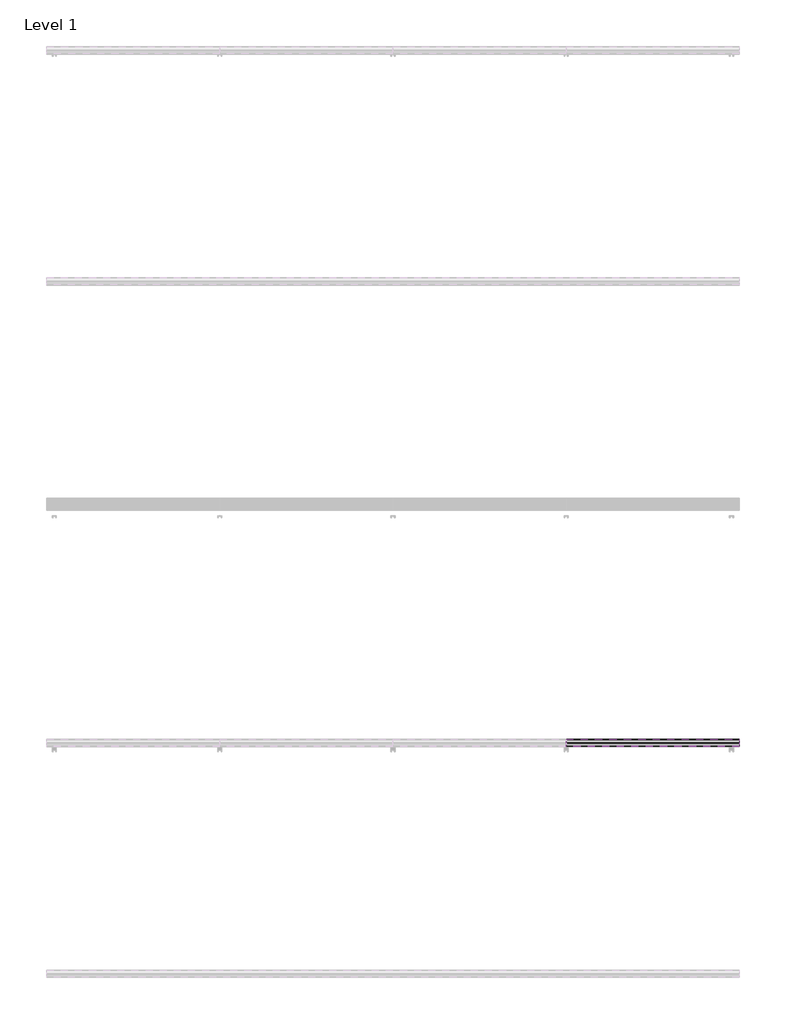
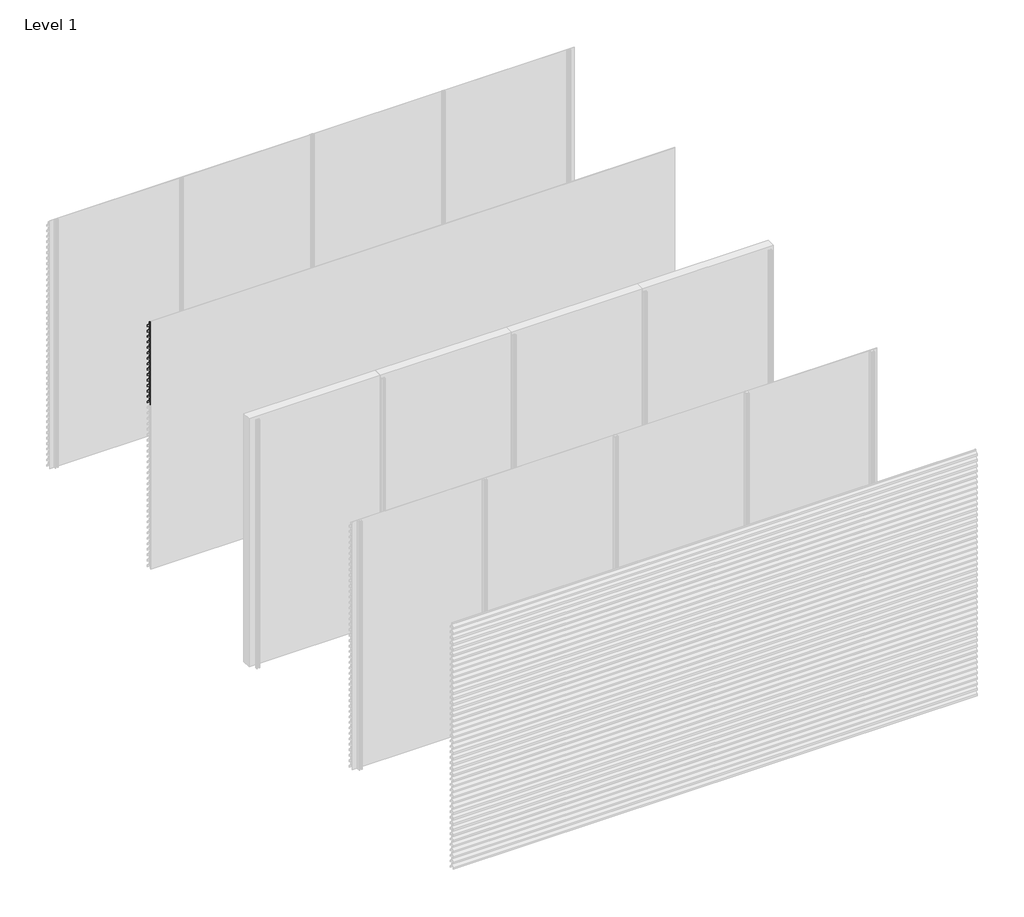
# One storey, part 28 of 35: 70 proxies.
"""IFC4 building model written with IfcOpenShell, lengths in millimetres."""

from ifc_helpers import new_model, si_unit, frame, origin, place, context, project, spatial, polyline, outline, extrude, element, save

model = new_model("IFC4")

# Units and contexts
model_context = context("Model", 3, world=origin())
ifc_project = project(units=[si_unit("LENGTHUNIT", "METRE", prefix="MILLI")], contexts=[model_context])

# Site, building, storey
site = spatial("IfcSite", under=ifc_project)
building = spatial("IfcBuilding", under=site)
storey = spatial("IfcBuildingStorey", under=building, Name="Level 1", Elevation=0.0)

# Proxies
placement = place(None, origin())
element("IfcBuildingElementProxy", 1, Name="Wall Sweeps", at=placement, inside=storey, context=model_context, shape_type="SweptSolid", body=[
    extrude(outline(polyline([(-7936.0, 2916.0), (-7936.0, 2896.0), (-7937.25, 2896.0), (-7937.25, 2915.4342979), (-7968.1138939, 2948.531772), (-7996.7, 2928.4392868), (-7996.7, 2909.6629874), (-7998.0, 2908.8506572), (-7998.0, 2929.1145472), (-7968.537525, 2949.823011), (-7968.537525, 2970.0), (-7967.1772624, 2970.0), (-7967.1772624, 2949.4335207), (-7936.0, 2916.0)])), frame((0.0, 0.0, 0.0), z_axis=(1.0, 0.0, 0.0), x_axis=(0.0, 1.0, 0.0)), (0.0, 0.0, 1.0), 6000.0),
])
element("IfcBuildingElementProxy", 2, Name="Wall Sweeps", at=placement, inside=storey, context=model_context, shape_type="SweptSolid", body=[
    extrude(outline(polyline([(-7936.0, 2850.0), (-7936.0, 2830.0), (-7937.25, 2830.0), (-7937.25, 2849.4342979), (-7968.1138939, 2882.531772), (-7996.7, 2862.4392868), (-7996.7, 2843.6629874), (-7998.0, 2842.8506572), (-7998.0, 2863.1145472), (-7968.537525, 2883.823011), (-7968.537525, 2904.0), (-7967.1772624, 2904.0), (-7967.1772624, 2883.4335207), (-7936.0, 2850.0)])), frame((0.0, 0.0, 0.0), z_axis=(1.0, 0.0, 0.0), x_axis=(0.0, 1.0, 0.0)), (0.0, 0.0, 1.0), 6000.0),
])
element("IfcBuildingElementProxy", 3, Name="Wall Sweeps", at=placement, inside=storey, context=model_context, shape_type="SweptSolid", body=[
    extrude(outline(polyline([(-7936.0, 2784.0), (-7936.0, 2764.0), (-7937.25, 2764.0), (-7937.25, 2783.4342979), (-7968.1138939, 2816.531772), (-7996.7, 2796.4392868), (-7996.7, 2777.6629874), (-7998.0, 2776.8506572), (-7998.0, 2797.1145472), (-7968.537525, 2817.823011), (-7968.537525, 2838.0), (-7967.1772624, 2838.0), (-7967.1772624, 2817.4335207), (-7936.0, 2784.0)])), frame((0.0, 0.0, 0.0), z_axis=(1.0, 0.0, 0.0), x_axis=(0.0, 1.0, 0.0)), (0.0, 0.0, 1.0), 6000.0),
])
element("IfcBuildingElementProxy", 4, Name="Wall Sweeps", at=placement, inside=storey, context=model_context, shape_type="SweptSolid", body=[
    extrude(outline(polyline([(-7936.0, 2718.0), (-7936.0, 2698.0), (-7937.25, 2698.0), (-7937.25, 2717.4342979), (-7968.1138939, 2750.531772), (-7996.7, 2730.4392868), (-7996.7, 2711.6629874), (-7998.0, 2710.8506572), (-7998.0, 2731.1145472), (-7968.537525, 2751.823011), (-7968.537525, 2772.0), (-7967.1772624, 2772.0), (-7967.1772624, 2751.4335207), (-7936.0, 2718.0)])), frame((0.0, 0.0, 0.0), z_axis=(1.0, 0.0, 0.0), x_axis=(0.0, 1.0, 0.0)), (0.0, 0.0, 1.0), 6000.0),
])
element("IfcBuildingElementProxy", 5, Name="Wall Sweeps", at=placement, inside=storey, context=model_context, shape_type="SweptSolid", body=[
    extrude(outline(polyline([(-7936.0, 2652.0), (-7936.0, 2632.0), (-7937.25, 2632.0), (-7937.25, 2651.4342979), (-7968.1138939, 2684.531772), (-7996.7, 2664.4392868), (-7996.7, 2645.6629874), (-7998.0, 2644.8506572), (-7998.0, 2665.1145472), (-7968.537525, 2685.823011), (-7968.537525, 2706.0), (-7967.1772624, 2706.0), (-7967.1772624, 2685.4335207), (-7936.0, 2652.0)])), frame((0.0, 0.0, 0.0), z_axis=(1.0, 0.0, 0.0), x_axis=(0.0, 1.0, 0.0)), (0.0, 0.0, 1.0), 6000.0),
])
element("IfcBuildingElementProxy", 6, Name="Wall Sweeps", at=placement, inside=storey, context=model_context, shape_type="SweptSolid", body=[
    extrude(outline(polyline([(-7936.0, 2586.0), (-7936.0, 2566.0), (-7937.25, 2566.0), (-7937.25, 2585.4342979), (-7968.1138939, 2618.531772), (-7996.7, 2598.4392868), (-7996.7, 2579.6629874), (-7998.0, 2578.8506572), (-7998.0, 2599.1145472), (-7968.537525, 2619.823011), (-7968.537525, 2640.0), (-7967.1772624, 2640.0), (-7967.1772624, 2619.4335207), (-7936.0, 2586.0)])), frame((0.0, 0.0, 0.0), z_axis=(1.0, 0.0, 0.0), x_axis=(0.0, 1.0, 0.0)), (0.0, 0.0, 1.0), 6000.0),
])
element("IfcBuildingElementProxy", 7, Name="Wall Sweeps", at=placement, inside=storey, context=model_context, shape_type="SweptSolid", body=[
    extrude(outline(polyline([(-7936.0, 2520.0), (-7936.0, 2500.0), (-7937.25, 2500.0), (-7937.25, 2519.4342979), (-7968.1138939, 2552.531772), (-7996.7, 2532.4392868), (-7996.7, 2513.6629874), (-7998.0, 2512.8506572), (-7998.0, 2533.1145472), (-7968.537525, 2553.823011), (-7968.537525, 2574.0), (-7967.1772624, 2574.0), (-7967.1772624, 2553.4335207), (-7936.0, 2520.0)])), frame((0.0, 0.0, 0.0), z_axis=(1.0, 0.0, 0.0), x_axis=(0.0, 1.0, 0.0)), (0.0, 0.0, 1.0), 6000.0),
])
element("IfcBuildingElementProxy", 8, Name="Wall Sweeps", at=placement, inside=storey, context=model_context, shape_type="SweptSolid", body=[
    extrude(outline(polyline([(-7936.0, 2454.0), (-7936.0, 2434.0), (-7937.25, 2434.0), (-7937.25, 2453.4342979), (-7968.1138939, 2486.531772), (-7996.7, 2466.4392868), (-7996.7, 2447.6629874), (-7998.0, 2446.8506572), (-7998.0, 2467.1145472), (-7968.537525, 2487.823011), (-7968.537525, 2508.0), (-7967.1772624, 2508.0), (-7967.1772624, 2487.4335207), (-7936.0, 2454.0)])), frame((0.0, 0.0, 0.0), z_axis=(1.0, 0.0, 0.0), x_axis=(0.0, 1.0, 0.0)), (0.0, 0.0, 1.0), 6000.0),
])
element("IfcBuildingElementProxy", 9, Name="Wall Sweeps", at=placement, inside=storey, context=model_context, shape_type="SweptSolid", body=[
    extrude(outline(polyline([(-7936.0, 2388.0), (-7936.0, 2368.0), (-7937.25, 2368.0), (-7937.25, 2387.4342979), (-7968.1138939, 2420.531772), (-7996.7, 2400.4392868), (-7996.7, 2381.6629874), (-7998.0, 2380.8506572), (-7998.0, 2401.1145472), (-7968.537525, 2421.823011), (-7968.537525, 2442.0), (-7967.1772624, 2442.0), (-7967.1772624, 2421.4335207), (-7936.0, 2388.0)])), frame((0.0, 0.0, 0.0), z_axis=(1.0, 0.0, 0.0), x_axis=(0.0, 1.0, 0.0)), (0.0, 0.0, 1.0), 6000.0),
])
element("IfcBuildingElementProxy", 10, Name="Wall Sweeps", at=placement, inside=storey, context=model_context, shape_type="SweptSolid", body=[
    extrude(outline(polyline([(-7936.0, 2322.0), (-7936.0, 2302.0), (-7937.25, 2302.0), (-7937.25, 2321.4342979), (-7968.1138939, 2354.531772), (-7996.7, 2334.4392868), (-7996.7, 2315.6629874), (-7998.0, 2314.8506572), (-7998.0, 2335.1145472), (-7968.537525, 2355.823011), (-7968.537525, 2376.0), (-7967.1772624, 2376.0), (-7967.1772624, 2355.4335207), (-7936.0, 2322.0)])), frame((0.0, 0.0, 0.0), z_axis=(1.0, 0.0, 0.0), x_axis=(0.0, 1.0, 0.0)), (0.0, 0.0, 1.0), 6000.0),
])
element("IfcBuildingElementProxy", 11, Name="Wall Sweeps", at=placement, inside=storey, context=model_context, shape_type="SweptSolid", body=[
    extrude(outline(polyline([(-7936.0, 2256.0), (-7936.0, 2236.0), (-7937.25, 2236.0), (-7937.25, 2255.4342979), (-7968.1138939, 2288.531772), (-7996.7, 2268.4392868), (-7996.7, 2249.6629874), (-7998.0, 2248.8506572), (-7998.0, 2269.1145472), (-7968.537525, 2289.823011), (-7968.537525, 2310.0), (-7967.1772624, 2310.0), (-7967.1772624, 2289.4335207), (-7936.0, 2256.0)])), frame((0.0, 0.0, 0.0), z_axis=(1.0, 0.0, 0.0), x_axis=(0.0, 1.0, 0.0)), (0.0, 0.0, 1.0), 6000.0),
])
element("IfcBuildingElementProxy", 12, Name="Wall Sweeps", at=placement, inside=storey, context=model_context, shape_type="SweptSolid", body=[
    extrude(outline(polyline([(-7936.0, 2190.0), (-7936.0, 2170.0), (-7937.25, 2170.0), (-7937.25, 2189.4342979), (-7968.1138939, 2222.531772), (-7996.7, 2202.4392868), (-7996.7, 2183.6629874), (-7998.0, 2182.8506572), (-7998.0, 2203.1145472), (-7968.537525, 2223.823011), (-7968.537525, 2244.0), (-7967.1772624, 2244.0), (-7967.1772624, 2223.4335207), (-7936.0, 2190.0)])), frame((0.0, 0.0, 0.0), z_axis=(1.0, 0.0, 0.0), x_axis=(0.0, 1.0, 0.0)), (0.0, 0.0, 1.0), 6000.0),
])
element("IfcBuildingElementProxy", 13, Name="Wall Sweeps", at=placement, inside=storey, context=model_context, shape_type="SweptSolid", body=[
    extrude(outline(polyline([(-7936.0, 2124.0), (-7936.0, 2104.0), (-7937.25, 2104.0), (-7937.25, 2123.4342979), (-7968.1138939, 2156.531772), (-7996.7, 2136.4392868), (-7996.7, 2117.6629874), (-7998.0, 2116.8506572), (-7998.0, 2137.1145472), (-7968.537525, 2157.823011), (-7968.537525, 2178.0), (-7967.1772624, 2178.0), (-7967.1772624, 2157.4335207), (-7936.0, 2124.0)])), frame((0.0, 0.0, 0.0), z_axis=(1.0, 0.0, 0.0), x_axis=(0.0, 1.0, 0.0)), (0.0, 0.0, 1.0), 6000.0),
])
element("IfcBuildingElementProxy", 14, Name="Wall Sweeps", at=placement, inside=storey, context=model_context, shape_type="SweptSolid", body=[
    extrude(outline(polyline([(-7936.0, 2058.0), (-7936.0, 2038.0), (-7937.25, 2038.0), (-7937.25, 2057.4342979), (-7968.1138939, 2090.531772), (-7996.7, 2070.4392868), (-7996.7, 2051.6629874), (-7998.0, 2050.8506572), (-7998.0, 2071.1145472), (-7968.537525, 2091.823011), (-7968.537525, 2112.0), (-7967.1772624, 2112.0), (-7967.1772624, 2091.4335207), (-7936.0, 2058.0)])), frame((0.0, 0.0, 0.0), z_axis=(1.0, 0.0, 0.0), x_axis=(0.0, 1.0, 0.0)), (0.0, 0.0, 1.0), 6000.0),
])
element("IfcBuildingElementProxy", 15, Name="Wall Sweeps", at=placement, inside=storey, context=model_context, shape_type="SweptSolid", body=[
    extrude(outline(polyline([(-7936.0, 1992.0), (-7936.0, 1972.0), (-7937.25, 1972.0), (-7937.25, 1991.4342979), (-7968.1138939, 2024.531772), (-7996.7, 2004.4392868), (-7996.7, 1985.6629874), (-7998.0, 1984.8506572), (-7998.0, 2005.1145472), (-7968.537525, 2025.823011), (-7968.537525, 2046.0), (-7967.1772624, 2046.0), (-7967.1772624, 2025.4335207), (-7936.0, 1992.0)])), frame((0.0, 0.0, 0.0), z_axis=(1.0, 0.0, 0.0), x_axis=(0.0, 1.0, 0.0)), (0.0, 0.0, 1.0), 6000.0),
])
element("IfcBuildingElementProxy", 16, Name="Wall Sweeps", at=placement, inside=storey, context=model_context, shape_type="SweptSolid", body=[
    extrude(outline(polyline([(-11936.0, 606.0), (-11936.0, 586.0), (-11937.25, 586.0), (-11937.25, 605.4342979), (-11968.1138939, 638.531772), (-11996.7, 618.4392868), (-11996.7, 599.6629874), (-11998.0, 598.8506572), (-11998.0, 619.1145472), (-11968.537525, 639.823011), (-11968.537525, 660.0), (-11967.1772624, 660.0), (-11967.1772624, 639.4335207), (-11936.0, 606.0)])), frame((3000.0, 0.0, 0.0), z_axis=(1.0, 0.0, 0.0), x_axis=(0.0, 1.0, 0.0)), (0.0, 0.0, 1.0), 1500.0),
])
element("IfcBuildingElementProxy", 17, Name="Wall Sweeps", at=placement, inside=storey, context=model_context, shape_type="SweptSolid", body=[
    extrude(outline(polyline([(-11936.0, 540.0), (-11936.0, 520.0), (-11937.25, 520.0), (-11937.25, 539.4342979), (-11968.1138939, 572.531772), (-11996.7, 552.4392868), (-11996.7, 533.6629874), (-11998.0, 532.8506572), (-11998.0, 553.1145472), (-11968.537525, 573.823011), (-11968.537525, 594.0), (-11967.1772624, 594.0), (-11967.1772624, 573.4335207), (-11936.0, 540.0)])), frame((3000.0, 0.0, 0.0), z_axis=(1.0, 0.0, 0.0), x_axis=(0.0, 1.0, 0.0)), (0.0, 0.0, 1.0), 1500.0),
])
element("IfcBuildingElementProxy", 18, Name="Wall Sweeps", at=placement, inside=storey, context=model_context, shape_type="SweptSolid", body=[
    extrude(outline(polyline([(-11936.0, 474.0), (-11936.0, 454.0), (-11937.25, 454.0), (-11937.25, 473.4342979), (-11968.1138939, 506.531772), (-11996.7, 486.4392868), (-11996.7, 467.6629874), (-11998.0, 466.8506572), (-11998.0, 487.1145472), (-11968.537525, 507.823011), (-11968.537525, 528.0), (-11967.1772624, 528.0), (-11967.1772624, 507.4335207), (-11936.0, 474.0)])), frame((3000.0, 0.0, 0.0), z_axis=(1.0, 0.0, 0.0), x_axis=(0.0, 1.0, 0.0)), (0.0, 0.0, 1.0), 1500.0),
])
element("IfcBuildingElementProxy", 19, Name="Wall Sweeps", at=placement, inside=storey, context=model_context, shape_type="SweptSolid", body=[
    extrude(outline(polyline([(-11936.0, 408.0), (-11936.0, 388.0), (-11937.25, 388.0), (-11937.25, 407.4342979), (-11968.1138939, 440.531772), (-11996.7, 420.4392868), (-11996.7, 401.6629874), (-11998.0, 400.8506572), (-11998.0, 421.1145472), (-11968.537525, 441.823011), (-11968.537525, 462.0), (-11967.1772624, 462.0), (-11967.1772624, 441.4335207), (-11936.0, 408.0)])), frame((3000.0, 0.0, 0.0), z_axis=(1.0, 0.0, 0.0), x_axis=(0.0, 1.0, 0.0)), (0.0, 0.0, 1.0), 1500.0),
])
element("IfcBuildingElementProxy", 20, Name="Wall Sweeps", at=placement, inside=storey, context=model_context, shape_type="SweptSolid", body=[
    extrude(outline(polyline([(-11936.0, 342.0), (-11936.0, 322.0), (-11937.25, 322.0), (-11937.25, 341.4342979), (-11968.1138939, 374.531772), (-11996.7, 354.4392868), (-11996.7, 335.6629874), (-11998.0, 334.8506572), (-11998.0, 355.1145472), (-11968.537525, 375.823011), (-11968.537525, 396.0), (-11967.1772624, 396.0), (-11967.1772624, 375.4335207), (-11936.0, 342.0)])), frame((3000.0, 0.0, 0.0), z_axis=(1.0, 0.0, 0.0), x_axis=(0.0, 1.0, 0.0)), (0.0, 0.0, 1.0), 1500.0),
])
element("IfcBuildingElementProxy", 21, Name="Wall Sweeps", at=placement, inside=storey, context=model_context, shape_type="SweptSolid", body=[
    extrude(outline(polyline([(-11936.0, 276.0), (-11936.0, 256.0), (-11937.25, 256.0), (-11937.25, 275.4342979), (-11968.1138939, 308.531772), (-11996.7, 288.4392868), (-11996.7, 269.6629874), (-11998.0, 268.8506572), (-11998.0, 289.1145472), (-11968.537525, 309.823011), (-11968.537525, 330.0), (-11967.1772624, 330.0), (-11967.1772624, 309.4335207), (-11936.0, 276.0)])), frame((3000.0, 0.0, 0.0), z_axis=(1.0, 0.0, 0.0), x_axis=(0.0, 1.0, 0.0)), (0.0, 0.0, 1.0), 1500.0),
])
element("IfcBuildingElementProxy", 22, Name="Wall Sweeps", at=placement, inside=storey, context=model_context, shape_type="SweptSolid", body=[
    extrude(outline(polyline([(-11936.0, 210.0), (-11936.0, 190.0), (-11937.25, 190.0), (-11937.25, 209.4342979), (-11968.1138939, 242.531772), (-11996.7, 222.4392868), (-11996.7, 203.6629874), (-11998.0, 202.8506572), (-11998.0, 223.1145472), (-11968.537525, 243.823011), (-11968.537525, 264.0), (-11967.1772624, 264.0), (-11967.1772624, 243.4335207), (-11936.0, 210.0)])), frame((3000.0, 0.0, 0.0), z_axis=(1.0, 0.0, 0.0), x_axis=(0.0, 1.0, 0.0)), (0.0, 0.0, 1.0), 1500.0),
])
element("IfcBuildingElementProxy", 23, Name="Wall Sweeps", at=placement, inside=storey, context=model_context, shape_type="SweptSolid", body=[
    extrude(outline(polyline([(-11936.0, 144.0), (-11936.0, 124.0), (-11937.25, 124.0), (-11937.25, 143.4342979), (-11968.1138939, 176.531772), (-11996.7, 156.4392868), (-11996.7, 137.6629874), (-11998.0, 136.8506572), (-11998.0, 157.1145472), (-11968.537525, 177.823011), (-11968.537525, 198.0), (-11967.1772624, 198.0), (-11967.1772624, 177.4335207), (-11936.0, 144.0)])), frame((3000.0, 0.0, 0.0), z_axis=(1.0, 0.0, 0.0), x_axis=(0.0, 1.0, 0.0)), (0.0, 0.0, 1.0), 1500.0),
])
element("IfcBuildingElementProxy", 24, Name="Wall Sweeps", at=placement, inside=storey, context=model_context, shape_type="SweptSolid", body=[
    extrude(outline(polyline([(-11936.0, 78.0), (-11936.0, 58.0), (-11937.25, 58.0), (-11937.25, 77.4342979), (-11968.1138939, 110.531772), (-11996.7, 90.4392868), (-11996.7, 71.6629874), (-11998.0, 70.8506572), (-11998.0, 91.1145472), (-11968.537525, 111.823011), (-11968.537525, 132.0), (-11967.1772624, 132.0), (-11967.1772624, 111.4335207), (-11936.0, 78.0)])), frame((3000.0, 0.0, 0.0), z_axis=(1.0, 0.0, 0.0), x_axis=(0.0, 1.0, 0.0)), (0.0, 0.0, 1.0), 1500.0),
])
element("IfcBuildingElementProxy", 25, Name="Wall Sweeps", at=placement, inside=storey, context=model_context, shape_type="SweptSolid", body=[
    extrude(outline(polyline([(-11936.0, 12.0), (-11936.0, -8.0), (-11937.25, -8.0), (-11937.25, 11.4342979), (-11968.1138939, 44.531772), (-11996.7, 24.4392868), (-11996.7, 5.6629874), (-11998.0, 4.8506572), (-11998.0, 25.1145472), (-11968.537525, 45.823011), (-11968.537525, 66.0), (-11967.1772624, 66.0), (-11967.1772624, 45.4335207), (-11936.0, 12.0)])), frame((3000.0, 0.0, 0.0), z_axis=(1.0, 0.0, 0.0), x_axis=(0.0, 1.0, 0.0)), (0.0, 0.0, 1.0), 1500.0),
])
element("IfcBuildingElementProxy", 26, Name="Wall Sweeps", at=placement, inside=storey, context=model_context, shape_type="SweptSolid", body=[
    extrude(outline(polyline([(-11936.0, 2916.0), (-11936.0, 2896.0), (-11937.25, 2896.0), (-11937.25, 2915.4342979), (-11968.1138939, 2948.531772), (-11996.7, 2928.4392868), (-11996.7, 2909.6629874), (-11998.0, 2908.8506572), (-11998.0, 2929.1145472), (-11968.537525, 2949.823011), (-11968.537525, 2970.0), (-11967.1772624, 2970.0), (-11967.1772624, 2949.4335207), (-11936.0, 2916.0)])), frame((4500.0, 0.0, 0.0), z_axis=(1.0, 0.0, 0.0), x_axis=(0.0, 1.0, 0.0)), (0.0, 0.0, 1.0), 1500.0),
])
element("IfcBuildingElementProxy", 27, Name="Wall Sweeps", at=placement, inside=storey, context=model_context, shape_type="SweptSolid", body=[
    extrude(outline(polyline([(-11936.0, 2850.0), (-11936.0, 2830.0), (-11937.25, 2830.0), (-11937.25, 2849.4342979), (-11968.1138939, 2882.531772), (-11996.7, 2862.4392868), (-11996.7, 2843.6629874), (-11998.0, 2842.8506572), (-11998.0, 2863.1145472), (-11968.537525, 2883.823011), (-11968.537525, 2904.0), (-11967.1772624, 2904.0), (-11967.1772624, 2883.4335207), (-11936.0, 2850.0)])), frame((4500.0, 0.0, 0.0), z_axis=(1.0, 0.0, 0.0), x_axis=(0.0, 1.0, 0.0)), (0.0, 0.0, 1.0), 1500.0),
])
element("IfcBuildingElementProxy", 28, Name="Wall Sweeps", at=placement, inside=storey, context=model_context, shape_type="SweptSolid", body=[
    extrude(outline(polyline([(-11936.0, 2784.0), (-11936.0, 2764.0), (-11937.25, 2764.0), (-11937.25, 2783.4342979), (-11968.1138939, 2816.531772), (-11996.7, 2796.4392868), (-11996.7, 2777.6629874), (-11998.0, 2776.8506572), (-11998.0, 2797.1145472), (-11968.537525, 2817.823011), (-11968.537525, 2838.0), (-11967.1772624, 2838.0), (-11967.1772624, 2817.4335207), (-11936.0, 2784.0)])), frame((4500.0, 0.0, 0.0), z_axis=(1.0, 0.0, 0.0), x_axis=(0.0, 1.0, 0.0)), (0.0, 0.0, 1.0), 1500.0),
])
element("IfcBuildingElementProxy", 29, Name="Wall Sweeps", at=placement, inside=storey, context=model_context, shape_type="SweptSolid", body=[
    extrude(outline(polyline([(-11936.0, 2718.0), (-11936.0, 2698.0), (-11937.25, 2698.0), (-11937.25, 2717.4342979), (-11968.1138939, 2750.531772), (-11996.7, 2730.4392868), (-11996.7, 2711.6629874), (-11998.0, 2710.8506572), (-11998.0, 2731.1145472), (-11968.537525, 2751.823011), (-11968.537525, 2772.0), (-11967.1772624, 2772.0), (-11967.1772624, 2751.4335207), (-11936.0, 2718.0)])), frame((4500.0, 0.0, 0.0), z_axis=(1.0, 0.0, 0.0), x_axis=(0.0, 1.0, 0.0)), (0.0, 0.0, 1.0), 1500.0),
])
element("IfcBuildingElementProxy", 30, Name="Wall Sweeps", at=placement, inside=storey, context=model_context, shape_type="SweptSolid", body=[
    extrude(outline(polyline([(-11936.0, 2652.0), (-11936.0, 2632.0), (-11937.25, 2632.0), (-11937.25, 2651.4342979), (-11968.1138939, 2684.531772), (-11996.7, 2664.4392868), (-11996.7, 2645.6629874), (-11998.0, 2644.8506572), (-11998.0, 2665.1145472), (-11968.537525, 2685.823011), (-11968.537525, 2706.0), (-11967.1772624, 2706.0), (-11967.1772624, 2685.4335207), (-11936.0, 2652.0)])), frame((4500.0, 0.0, 0.0), z_axis=(1.0, 0.0, 0.0), x_axis=(0.0, 1.0, 0.0)), (0.0, 0.0, 1.0), 1500.0),
])
element("IfcBuildingElementProxy", 31, Name="Wall Sweeps", at=placement, inside=storey, context=model_context, shape_type="SweptSolid", body=[
    extrude(outline(polyline([(-11936.0, 2586.0), (-11936.0, 2566.0), (-11937.25, 2566.0), (-11937.25, 2585.4342979), (-11968.1138939, 2618.531772), (-11996.7, 2598.4392868), (-11996.7, 2579.6629874), (-11998.0, 2578.8506572), (-11998.0, 2599.1145472), (-11968.537525, 2619.823011), (-11968.537525, 2640.0), (-11967.1772624, 2640.0), (-11967.1772624, 2619.4335207), (-11936.0, 2586.0)])), frame((4500.0, 0.0, 0.0), z_axis=(1.0, 0.0, 0.0), x_axis=(0.0, 1.0, 0.0)), (0.0, 0.0, 1.0), 1500.0),
])
element("IfcBuildingElementProxy", 32, Name="Wall Sweeps", at=placement, inside=storey, context=model_context, shape_type="SweptSolid", body=[
    extrude(outline(polyline([(-11936.0, 2520.0), (-11936.0, 2500.0), (-11937.25, 2500.0), (-11937.25, 2519.4342979), (-11968.1138939, 2552.531772), (-11996.7, 2532.4392868), (-11996.7, 2513.6629874), (-11998.0, 2512.8506572), (-11998.0, 2533.1145472), (-11968.537525, 2553.823011), (-11968.537525, 2574.0), (-11967.1772624, 2574.0), (-11967.1772624, 2553.4335207), (-11936.0, 2520.0)])), frame((4500.0, 0.0, 0.0), z_axis=(1.0, 0.0, 0.0), x_axis=(0.0, 1.0, 0.0)), (0.0, 0.0, 1.0), 1500.0),
])
element("IfcBuildingElementProxy", 33, Name="Wall Sweeps", at=placement, inside=storey, context=model_context, shape_type="SweptSolid", body=[
    extrude(outline(polyline([(-11936.0, 2454.0), (-11936.0, 2434.0), (-11937.25, 2434.0), (-11937.25, 2453.4342979), (-11968.1138939, 2486.531772), (-11996.7, 2466.4392868), (-11996.7, 2447.6629874), (-11998.0, 2446.8506572), (-11998.0, 2467.1145472), (-11968.537525, 2487.823011), (-11968.537525, 2508.0), (-11967.1772624, 2508.0), (-11967.1772624, 2487.4335207), (-11936.0, 2454.0)])), frame((4500.0, 0.0, 0.0), z_axis=(1.0, 0.0, 0.0), x_axis=(0.0, 1.0, 0.0)), (0.0, 0.0, 1.0), 1500.0),
])
element("IfcBuildingElementProxy", 34, Name="Wall Sweeps", at=placement, inside=storey, context=model_context, shape_type="SweptSolid", body=[
    extrude(outline(polyline([(-11936.0, 2388.0), (-11936.0, 2368.0), (-11937.25, 2368.0), (-11937.25, 2387.4342979), (-11968.1138939, 2420.531772), (-11996.7, 2400.4392868), (-11996.7, 2381.6629874), (-11998.0, 2380.8506572), (-11998.0, 2401.1145472), (-11968.537525, 2421.823011), (-11968.537525, 2442.0), (-11967.1772624, 2442.0), (-11967.1772624, 2421.4335207), (-11936.0, 2388.0)])), frame((4500.0, 0.0, 0.0), z_axis=(1.0, 0.0, 0.0), x_axis=(0.0, 1.0, 0.0)), (0.0, 0.0, 1.0), 1500.0),
])
element("IfcBuildingElementProxy", 35, Name="Wall Sweeps", at=placement, inside=storey, context=model_context, shape_type="SweptSolid", body=[
    extrude(outline(polyline([(-11936.0, 2322.0), (-11936.0, 2302.0), (-11937.25, 2302.0), (-11937.25, 2321.4342979), (-11968.1138939, 2354.531772), (-11996.7, 2334.4392868), (-11996.7, 2315.6629874), (-11998.0, 2314.8506572), (-11998.0, 2335.1145472), (-11968.537525, 2355.823011), (-11968.537525, 2376.0), (-11967.1772624, 2376.0), (-11967.1772624, 2355.4335207), (-11936.0, 2322.0)])), frame((4500.0, 0.0, 0.0), z_axis=(1.0, 0.0, 0.0), x_axis=(0.0, 1.0, 0.0)), (0.0, 0.0, 1.0), 1500.0),
])
element("IfcBuildingElementProxy", 36, Name="Wall Sweeps", at=placement, inside=storey, context=model_context, shape_type="SweptSolid", body=[
    extrude(outline(polyline([(-11936.0, 2256.0), (-11936.0, 2236.0), (-11937.25, 2236.0), (-11937.25, 2255.4342979), (-11968.1138939, 2288.531772), (-11996.7, 2268.4392868), (-11996.7, 2249.6629874), (-11998.0, 2248.8506572), (-11998.0, 2269.1145472), (-11968.537525, 2289.823011), (-11968.537525, 2310.0), (-11967.1772624, 2310.0), (-11967.1772624, 2289.4335207), (-11936.0, 2256.0)])), frame((4500.0, 0.0, 0.0), z_axis=(1.0, 0.0, 0.0), x_axis=(0.0, 1.0, 0.0)), (0.0, 0.0, 1.0), 1500.0),
])
element("IfcBuildingElementProxy", 37, Name="Wall Sweeps", at=placement, inside=storey, context=model_context, shape_type="SweptSolid", body=[
    extrude(outline(polyline([(-11936.0, 2190.0), (-11936.0, 2170.0), (-11937.25, 2170.0), (-11937.25, 2189.4342979), (-11968.1138939, 2222.531772), (-11996.7, 2202.4392868), (-11996.7, 2183.6629874), (-11998.0, 2182.8506572), (-11998.0, 2203.1145472), (-11968.537525, 2223.823011), (-11968.537525, 2244.0), (-11967.1772624, 2244.0), (-11967.1772624, 2223.4335207), (-11936.0, 2190.0)])), frame((4500.0, 0.0, 0.0), z_axis=(1.0, 0.0, 0.0), x_axis=(0.0, 1.0, 0.0)), (0.0, 0.0, 1.0), 1500.0),
])
element("IfcBuildingElementProxy", 38, Name="Wall Sweeps", at=placement, inside=storey, context=model_context, shape_type="SweptSolid", body=[
    extrude(outline(polyline([(-11936.0, 2124.0), (-11936.0, 2104.0), (-11937.25, 2104.0), (-11937.25, 2123.4342979), (-11968.1138939, 2156.531772), (-11996.7, 2136.4392868), (-11996.7, 2117.6629874), (-11998.0, 2116.8506572), (-11998.0, 2137.1145472), (-11968.537525, 2157.823011), (-11968.537525, 2178.0), (-11967.1772624, 2178.0), (-11967.1772624, 2157.4335207), (-11936.0, 2124.0)])), frame((4500.0, 0.0, 0.0), z_axis=(1.0, 0.0, 0.0), x_axis=(0.0, 1.0, 0.0)), (0.0, 0.0, 1.0), 1500.0),
])
element("IfcBuildingElementProxy", 39, Name="Wall Sweeps", at=placement, inside=storey, context=model_context, shape_type="SweptSolid", body=[
    extrude(outline(polyline([(-11936.0, 2058.0), (-11936.0, 2038.0), (-11937.25, 2038.0), (-11937.25, 2057.4342979), (-11968.1138939, 2090.531772), (-11996.7, 2070.4392868), (-11996.7, 2051.6629874), (-11998.0, 2050.8506572), (-11998.0, 2071.1145472), (-11968.537525, 2091.823011), (-11968.537525, 2112.0), (-11967.1772624, 2112.0), (-11967.1772624, 2091.4335207), (-11936.0, 2058.0)])), frame((4500.0, 0.0, 0.0), z_axis=(1.0, 0.0, 0.0), x_axis=(0.0, 1.0, 0.0)), (0.0, 0.0, 1.0), 1500.0),
])
element("IfcBuildingElementProxy", 40, Name="Wall Sweeps", at=placement, inside=storey, context=model_context, shape_type="SweptSolid", body=[
    extrude(outline(polyline([(-11936.0, 1992.0), (-11936.0, 1972.0), (-11937.25, 1972.0), (-11937.25, 1991.4342979), (-11968.1138939, 2024.531772), (-11996.7, 2004.4392868), (-11996.7, 1985.6629874), (-11998.0, 1984.8506572), (-11998.0, 2005.1145472), (-11968.537525, 2025.823011), (-11968.537525, 2046.0), (-11967.1772624, 2046.0), (-11967.1772624, 2025.4335207), (-11936.0, 1992.0)])), frame((4500.0, 0.0, 0.0), z_axis=(1.0, 0.0, 0.0), x_axis=(0.0, 1.0, 0.0)), (0.0, 0.0, 1.0), 1500.0),
])
element("IfcBuildingElementProxy", 41, Name="Wall Sweeps", at=placement, inside=storey, context=model_context, shape_type="SweptSolid", body=[
    extrude(outline(polyline([(-11936.0, 1926.0), (-11936.0, 1906.0), (-11937.25, 1906.0), (-11937.25, 1925.4342979), (-11968.1138939, 1958.531772), (-11996.7, 1938.4392868), (-11996.7, 1919.6629874), (-11998.0, 1918.8506572), (-11998.0, 1939.1145472), (-11968.537525, 1959.823011), (-11968.537525, 1980.0), (-11967.1772624, 1980.0), (-11967.1772624, 1959.4335207), (-11936.0, 1926.0)])), frame((4500.0, 0.0, 0.0), z_axis=(1.0, 0.0, 0.0), x_axis=(0.0, 1.0, 0.0)), (0.0, 0.0, 1.0), 1500.0),
])
element("IfcBuildingElementProxy", 42, Name="Wall Sweeps", at=placement, inside=storey, context=model_context, shape_type="SweptSolid", body=[
    extrude(outline(polyline([(-11936.0, 1860.0), (-11936.0, 1840.0), (-11937.25, 1840.0), (-11937.25, 1859.4342979), (-11968.1138939, 1892.531772), (-11996.7, 1872.4392868), (-11996.7, 1853.6629874), (-11998.0, 1852.8506572), (-11998.0, 1873.1145472), (-11968.537525, 1893.823011), (-11968.537525, 1914.0), (-11967.1772624, 1914.0), (-11967.1772624, 1893.4335207), (-11936.0, 1860.0)])), frame((4500.0, 0.0, 0.0), z_axis=(1.0, 0.0, 0.0), x_axis=(0.0, 1.0, 0.0)), (0.0, 0.0, 1.0), 1500.0),
])
element("IfcBuildingElementProxy", 43, Name="Wall Sweeps", at=placement, inside=storey, context=model_context, shape_type="SweptSolid", body=[
    extrude(outline(polyline([(-11936.0, 1794.0), (-11936.0, 1774.0), (-11937.25, 1774.0), (-11937.25, 1793.4342979), (-11968.1138939, 1826.531772), (-11996.7, 1806.4392868), (-11996.7, 1787.6629874), (-11998.0, 1786.8506572), (-11998.0, 1807.1145472), (-11968.537525, 1827.823011), (-11968.537525, 1848.0), (-11967.1772624, 1848.0), (-11967.1772624, 1827.4335207), (-11936.0, 1794.0)])), frame((4500.0, 0.0, 0.0), z_axis=(1.0, 0.0, 0.0), x_axis=(0.0, 1.0, 0.0)), (0.0, 0.0, 1.0), 1500.0),
])
element("IfcBuildingElementProxy", 44, Name="Wall Sweeps", at=placement, inside=storey, context=model_context, shape_type="SweptSolid", body=[
    extrude(outline(polyline([(-11936.0, 1728.0), (-11936.0, 1708.0), (-11937.25, 1708.0), (-11937.25, 1727.4342979), (-11968.1138939, 1760.531772), (-11996.7, 1740.4392868), (-11996.7, 1721.6629874), (-11998.0, 1720.8506572), (-11998.0, 1741.1145472), (-11968.537525, 1761.823011), (-11968.537525, 1782.0), (-11967.1772624, 1782.0), (-11967.1772624, 1761.4335207), (-11936.0, 1728.0)])), frame((4500.0, 0.0, 0.0), z_axis=(1.0, 0.0, 0.0), x_axis=(0.0, 1.0, 0.0)), (0.0, 0.0, 1.0), 1500.0),
])
element("IfcBuildingElementProxy", 45, Name="Wall Sweeps", at=placement, inside=storey, context=model_context, shape_type="SweptSolid", body=[
    extrude(outline(polyline([(-11936.0, 1662.0), (-11936.0, 1642.0), (-11937.25, 1642.0), (-11937.25, 1661.4342979), (-11968.1138939, 1694.531772), (-11996.7, 1674.4392868), (-11996.7, 1655.6629874), (-11998.0, 1654.8506572), (-11998.0, 1675.1145472), (-11968.537525, 1695.823011), (-11968.537525, 1716.0), (-11967.1772624, 1716.0), (-11967.1772624, 1695.4335207), (-11936.0, 1662.0)])), frame((4500.0, 0.0, 0.0), z_axis=(1.0, 0.0, 0.0), x_axis=(0.0, 1.0, 0.0)), (0.0, 0.0, 1.0), 1500.0),
])
element("IfcBuildingElementProxy", 46, Name="Wall Sweeps", at=placement, inside=storey, context=model_context, shape_type="SweptSolid", body=[
    extrude(outline(polyline([(-11936.0, 1596.0), (-11936.0, 1576.0), (-11937.25, 1576.0), (-11937.25, 1595.4342979), (-11968.1138939, 1628.531772), (-11996.7, 1608.4392868), (-11996.7, 1589.6629874), (-11998.0, 1588.8506572), (-11998.0, 1609.1145472), (-11968.537525, 1629.823011), (-11968.537525, 1650.0), (-11967.1772624, 1650.0), (-11967.1772624, 1629.4335207), (-11936.0, 1596.0)])), frame((4500.0, 0.0, 0.0), z_axis=(1.0, 0.0, 0.0), x_axis=(0.0, 1.0, 0.0)), (0.0, 0.0, 1.0), 1500.0),
])
element("IfcBuildingElementProxy", 47, Name="Wall Sweeps", at=placement, inside=storey, context=model_context, shape_type="SweptSolid", body=[
    extrude(outline(polyline([(-11936.0, 1530.0), (-11936.0, 1510.0), (-11937.25, 1510.0), (-11937.25, 1529.4342979), (-11968.1138939, 1562.531772), (-11996.7, 1542.4392868), (-11996.7, 1523.6629874), (-11998.0, 1522.8506572), (-11998.0, 1543.1145472), (-11968.537525, 1563.823011), (-11968.537525, 1584.0), (-11967.1772624, 1584.0), (-11967.1772624, 1563.4335207), (-11936.0, 1530.0)])), frame((4500.0, 0.0, 0.0), z_axis=(1.0, 0.0, 0.0), x_axis=(0.0, 1.0, 0.0)), (0.0, 0.0, 1.0), 1500.0),
])
element("IfcBuildingElementProxy", 48, Name="Wall Sweeps", at=placement, inside=storey, context=model_context, shape_type="SweptSolid", body=[
    extrude(outline(polyline([(-11936.0, 1464.0), (-11936.0, 1444.0), (-11937.25, 1444.0), (-11937.25, 1463.4342979), (-11968.1138939, 1496.531772), (-11996.7, 1476.4392868), (-11996.7, 1457.6629874), (-11998.0, 1456.8506572), (-11998.0, 1477.1145472), (-11968.537525, 1497.823011), (-11968.537525, 1518.0), (-11967.1772624, 1518.0), (-11967.1772624, 1497.4335207), (-11936.0, 1464.0)])), frame((4500.0, 0.0, 0.0), z_axis=(1.0, 0.0, 0.0), x_axis=(0.0, 1.0, 0.0)), (0.0, 0.0, 1.0), 1500.0),
])
element("IfcBuildingElementProxy", 49, Name="Wall Sweeps", at=placement, inside=storey, context=model_context, shape_type="SweptSolid", body=[
    extrude(outline(polyline([(-11936.0, 1398.0), (-11936.0, 1378.0), (-11937.25, 1378.0), (-11937.25, 1397.4342979), (-11968.1138939, 1430.531772), (-11996.7, 1410.4392868), (-11996.7, 1391.6629874), (-11998.0, 1390.8506572), (-11998.0, 1411.1145472), (-11968.537525, 1431.823011), (-11968.537525, 1452.0), (-11967.1772624, 1452.0), (-11967.1772624, 1431.4335207), (-11936.0, 1398.0)])), frame((4500.0, 0.0, 0.0), z_axis=(1.0, 0.0, 0.0), x_axis=(0.0, 1.0, 0.0)), (0.0, 0.0, 1.0), 1500.0),
])
element("IfcBuildingElementProxy", 50, Name="Wall Sweeps", at=placement, inside=storey, context=model_context, shape_type="SweptSolid", body=[
    extrude(outline(polyline([(-11936.0, 1332.0), (-11936.0, 1312.0), (-11937.25, 1312.0), (-11937.25, 1331.4342979), (-11968.1138939, 1364.531772), (-11996.7, 1344.4392868), (-11996.7, 1325.6629874), (-11998.0, 1324.8506572), (-11998.0, 1345.1145472), (-11968.537525, 1365.823011), (-11968.537525, 1386.0), (-11967.1772624, 1386.0), (-11967.1772624, 1365.4335207), (-11936.0, 1332.0)])), frame((4500.0, 0.0, 0.0), z_axis=(1.0, 0.0, 0.0), x_axis=(0.0, 1.0, 0.0)), (0.0, 0.0, 1.0), 1500.0),
])
element("IfcBuildingElementProxy", 51, Name="Wall Sweeps", at=placement, inside=storey, context=model_context, shape_type="SweptSolid", body=[
    extrude(outline(polyline([(-11936.0, 1266.0), (-11936.0, 1246.0), (-11937.25, 1246.0), (-11937.25, 1265.4342979), (-11968.1138939, 1298.531772), (-11996.7, 1278.4392868), (-11996.7, 1259.6629874), (-11998.0, 1258.8506572), (-11998.0, 1279.1145472), (-11968.537525, 1299.823011), (-11968.537525, 1320.0), (-11967.1772624, 1320.0), (-11967.1772624, 1299.4335207), (-11936.0, 1266.0)])), frame((4500.0, 0.0, 0.0), z_axis=(1.0, 0.0, 0.0), x_axis=(0.0, 1.0, 0.0)), (0.0, 0.0, 1.0), 1500.0),
])
element("IfcBuildingElementProxy", 52, Name="Wall Sweeps", at=placement, inside=storey, context=model_context, shape_type="SweptSolid", body=[
    extrude(outline(polyline([(-11936.0, 1200.0), (-11936.0, 1180.0), (-11937.25, 1180.0), (-11937.25, 1199.4342979), (-11968.1138939, 1232.531772), (-11996.7, 1212.4392868), (-11996.7, 1193.6629874), (-11998.0, 1192.8506572), (-11998.0, 1213.1145472), (-11968.537525, 1233.823011), (-11968.537525, 1254.0), (-11967.1772624, 1254.0), (-11967.1772624, 1233.4335207), (-11936.0, 1200.0)])), frame((4500.0, 0.0, 0.0), z_axis=(1.0, 0.0, 0.0), x_axis=(0.0, 1.0, 0.0)), (0.0, 0.0, 1.0), 1500.0),
])
element("IfcBuildingElementProxy", 53, Name="Wall Sweeps", at=placement, inside=storey, context=model_context, shape_type="SweptSolid", body=[
    extrude(outline(polyline([(-11936.0, 1134.0), (-11936.0, 1114.0), (-11937.25, 1114.0), (-11937.25, 1133.4342979), (-11968.1138939, 1166.531772), (-11996.7, 1146.4392868), (-11996.7, 1127.6629874), (-11998.0, 1126.8506572), (-11998.0, 1147.1145472), (-11968.537525, 1167.823011), (-11968.537525, 1188.0), (-11967.1772624, 1188.0), (-11967.1772624, 1167.4335207), (-11936.0, 1134.0)])), frame((4500.0, 0.0, 0.0), z_axis=(1.0, 0.0, 0.0), x_axis=(0.0, 1.0, 0.0)), (0.0, 0.0, 1.0), 1500.0),
])
element("IfcBuildingElementProxy", 54, Name="Wall Sweeps", at=placement, inside=storey, context=model_context, shape_type="SweptSolid", body=[
    extrude(outline(polyline([(-11936.0, 1068.0), (-11936.0, 1048.0), (-11937.25, 1048.0), (-11937.25, 1067.4342979), (-11968.1138939, 1100.531772), (-11996.7, 1080.4392868), (-11996.7, 1061.6629874), (-11998.0, 1060.8506572), (-11998.0, 1081.1145472), (-11968.537525, 1101.823011), (-11968.537525, 1122.0), (-11967.1772624, 1122.0), (-11967.1772624, 1101.4335207), (-11936.0, 1068.0)])), frame((4500.0, 0.0, 0.0), z_axis=(1.0, 0.0, 0.0), x_axis=(0.0, 1.0, 0.0)), (0.0, 0.0, 1.0), 1500.0),
])
element("IfcBuildingElementProxy", 55, Name="Wall Sweeps", at=placement, inside=storey, context=model_context, shape_type="SweptSolid", body=[
    extrude(outline(polyline([(-11936.0, 1002.0), (-11936.0, 982.0), (-11937.25, 982.0), (-11937.25, 1001.4342979), (-11968.1138939, 1034.531772), (-11996.7, 1014.4392868), (-11996.7, 995.6629874), (-11998.0, 994.8506572), (-11998.0, 1015.1145472), (-11968.537525, 1035.823011), (-11968.537525, 1056.0), (-11967.1772624, 1056.0), (-11967.1772624, 1035.4335207), (-11936.0, 1002.0)])), frame((4500.0, 0.0, 0.0), z_axis=(1.0, 0.0, 0.0), x_axis=(0.0, 1.0, 0.0)), (0.0, 0.0, 1.0), 1500.0),
])
element("IfcBuildingElementProxy", 56, Name="Wall Sweeps", at=placement, inside=storey, context=model_context, shape_type="SweptSolid", body=[
    extrude(outline(polyline([(-11936.0, 936.0), (-11936.0, 916.0), (-11937.25, 916.0), (-11937.25, 935.4342979), (-11968.1138939, 968.531772), (-11996.7, 948.4392868), (-11996.7, 929.6629874), (-11998.0, 928.8506572), (-11998.0, 949.1145472), (-11968.537525, 969.823011), (-11968.537525, 990.0), (-11967.1772624, 990.0), (-11967.1772624, 969.4335207), (-11936.0, 936.0)])), frame((4500.0, 0.0, 0.0), z_axis=(1.0, 0.0, 0.0), x_axis=(0.0, 1.0, 0.0)), (0.0, 0.0, 1.0), 1500.0),
])
element("IfcBuildingElementProxy", 57, Name="Wall Sweeps", at=placement, inside=storey, context=model_context, shape_type="SweptSolid", body=[
    extrude(outline(polyline([(-11936.0, 870.0), (-11936.0, 850.0), (-11937.25, 850.0), (-11937.25, 869.4342979), (-11968.1138939, 902.531772), (-11996.7, 882.4392868), (-11996.7, 863.6629874), (-11998.0, 862.8506572), (-11998.0, 883.1145472), (-11968.537525, 903.823011), (-11968.537525, 924.0), (-11967.1772624, 924.0), (-11967.1772624, 903.4335207), (-11936.0, 870.0)])), frame((4500.0, 0.0, 0.0), z_axis=(1.0, 0.0, 0.0), x_axis=(0.0, 1.0, 0.0)), (0.0, 0.0, 1.0), 1500.0),
])
element("IfcBuildingElementProxy", 58, Name="Wall Sweeps", at=placement, inside=storey, context=model_context, shape_type="SweptSolid", body=[
    extrude(outline(polyline([(-11936.0, 804.0), (-11936.0, 784.0), (-11937.25, 784.0), (-11937.25, 803.4342979), (-11968.1138939, 836.531772), (-11996.7, 816.4392868), (-11996.7, 797.6629874), (-11998.0, 796.8506572), (-11998.0, 817.1145472), (-11968.537525, 837.823011), (-11968.537525, 858.0), (-11967.1772624, 858.0), (-11967.1772624, 837.4335207), (-11936.0, 804.0)])), frame((4500.0, 0.0, 0.0), z_axis=(1.0, 0.0, 0.0), x_axis=(0.0, 1.0, 0.0)), (0.0, 0.0, 1.0), 1500.0),
])
element("IfcBuildingElementProxy", 59, Name="Wall Sweeps", at=placement, inside=storey, context=model_context, shape_type="SweptSolid", body=[
    extrude(outline(polyline([(-11936.0, 738.0), (-11936.0, 718.0), (-11937.25, 718.0), (-11937.25, 737.4342979), (-11968.1138939, 770.531772), (-11996.7, 750.4392868), (-11996.7, 731.6629874), (-11998.0, 730.8506572), (-11998.0, 751.1145472), (-11968.537525, 771.823011), (-11968.537525, 792.0), (-11967.1772624, 792.0), (-11967.1772624, 771.4335207), (-11936.0, 738.0)])), frame((4500.0, 0.0, 0.0), z_axis=(1.0, 0.0, 0.0), x_axis=(0.0, 1.0, 0.0)), (0.0, 0.0, 1.0), 1500.0),
])
element("IfcBuildingElementProxy", 60, Name="Wall Sweeps", at=placement, inside=storey, context=model_context, shape_type="SweptSolid", body=[
    extrude(outline(polyline([(-11936.0, 672.0), (-11936.0, 652.0), (-11937.25, 652.0), (-11937.25, 671.4342979), (-11968.1138939, 704.531772), (-11996.7, 684.4392868), (-11996.7, 665.6629874), (-11998.0, 664.8506572), (-11998.0, 685.1145472), (-11968.537525, 705.823011), (-11968.537525, 726.0), (-11967.1772624, 726.0), (-11967.1772624, 705.4335207), (-11936.0, 672.0)])), frame((4500.0, 0.0, 0.0), z_axis=(1.0, 0.0, 0.0), x_axis=(0.0, 1.0, 0.0)), (0.0, 0.0, 1.0), 1500.0),
])
element("IfcBuildingElementProxy", 61, Name="Wall Sweeps", at=placement, inside=storey, context=model_context, shape_type="SweptSolid", body=[
    extrude(outline(polyline([(-11936.0, 606.0), (-11936.0, 586.0), (-11937.25, 586.0), (-11937.25, 605.4342979), (-11968.1138939, 638.531772), (-11996.7, 618.4392868), (-11996.7, 599.6629874), (-11998.0, 598.8506572), (-11998.0, 619.1145472), (-11968.537525, 639.823011), (-11968.537525, 660.0), (-11967.1772624, 660.0), (-11967.1772624, 639.4335207), (-11936.0, 606.0)])), frame((4500.0, 0.0, 0.0), z_axis=(1.0, 0.0, 0.0), x_axis=(0.0, 1.0, 0.0)), (0.0, 0.0, 1.0), 1500.0),
])
element("IfcBuildingElementProxy", 62, Name="Wall Sweeps", at=placement, inside=storey, context=model_context, shape_type="SweptSolid", body=[
    extrude(outline(polyline([(-11936.0, 540.0), (-11936.0, 520.0), (-11937.25, 520.0), (-11937.25, 539.4342979), (-11968.1138939, 572.531772), (-11996.7, 552.4392868), (-11996.7, 533.6629874), (-11998.0, 532.8506572), (-11998.0, 553.1145472), (-11968.537525, 573.823011), (-11968.537525, 594.0), (-11967.1772624, 594.0), (-11967.1772624, 573.4335207), (-11936.0, 540.0)])), frame((4500.0, 0.0, 0.0), z_axis=(1.0, 0.0, 0.0), x_axis=(0.0, 1.0, 0.0)), (0.0, 0.0, 1.0), 1500.0),
])
element("IfcBuildingElementProxy", 63, Name="Wall Sweeps", at=placement, inside=storey, context=model_context, shape_type="SweptSolid", body=[
    extrude(outline(polyline([(-11936.0, 474.0), (-11936.0, 454.0), (-11937.25, 454.0), (-11937.25, 473.4342979), (-11968.1138939, 506.531772), (-11996.7, 486.4392868), (-11996.7, 467.6629874), (-11998.0, 466.8506572), (-11998.0, 487.1145472), (-11968.537525, 507.823011), (-11968.537525, 528.0), (-11967.1772624, 528.0), (-11967.1772624, 507.4335207), (-11936.0, 474.0)])), frame((4500.0, 0.0, 0.0), z_axis=(1.0, 0.0, 0.0), x_axis=(0.0, 1.0, 0.0)), (0.0, 0.0, 1.0), 1500.0),
])
element("IfcBuildingElementProxy", 64, Name="Wall Sweeps", at=placement, inside=storey, context=model_context, shape_type="SweptSolid", body=[
    extrude(outline(polyline([(-11936.0, 408.0), (-11936.0, 388.0), (-11937.25, 388.0), (-11937.25, 407.4342979), (-11968.1138939, 440.531772), (-11996.7, 420.4392868), (-11996.7, 401.6629874), (-11998.0, 400.8506572), (-11998.0, 421.1145472), (-11968.537525, 441.823011), (-11968.537525, 462.0), (-11967.1772624, 462.0), (-11967.1772624, 441.4335207), (-11936.0, 408.0)])), frame((4500.0, 0.0, 0.0), z_axis=(1.0, 0.0, 0.0), x_axis=(0.0, 1.0, 0.0)), (0.0, 0.0, 1.0), 1500.0),
])
element("IfcBuildingElementProxy", 65, Name="Wall Sweeps", at=placement, inside=storey, context=model_context, shape_type="SweptSolid", body=[
    extrude(outline(polyline([(-11936.0, 342.0), (-11936.0, 322.0), (-11937.25, 322.0), (-11937.25, 341.4342979), (-11968.1138939, 374.531772), (-11996.7, 354.4392868), (-11996.7, 335.6629874), (-11998.0, 334.8506572), (-11998.0, 355.1145472), (-11968.537525, 375.823011), (-11968.537525, 396.0), (-11967.1772624, 396.0), (-11967.1772624, 375.4335207), (-11936.0, 342.0)])), frame((4500.0, 0.0, 0.0), z_axis=(1.0, 0.0, 0.0), x_axis=(0.0, 1.0, 0.0)), (0.0, 0.0, 1.0), 1500.0),
])
element("IfcBuildingElementProxy", 66, Name="Wall Sweeps", at=placement, inside=storey, context=model_context, shape_type="SweptSolid", body=[
    extrude(outline(polyline([(-11936.0, 276.0), (-11936.0, 256.0), (-11937.25, 256.0), (-11937.25, 275.4342979), (-11968.1138939, 308.531772), (-11996.7, 288.4392868), (-11996.7, 269.6629874), (-11998.0, 268.8506572), (-11998.0, 289.1145472), (-11968.537525, 309.823011), (-11968.537525, 330.0), (-11967.1772624, 330.0), (-11967.1772624, 309.4335207), (-11936.0, 276.0)])), frame((4500.0, 0.0, 0.0), z_axis=(1.0, 0.0, 0.0), x_axis=(0.0, 1.0, 0.0)), (0.0, 0.0, 1.0), 1500.0),
])
element("IfcBuildingElementProxy", 67, Name="Wall Sweeps", at=placement, inside=storey, context=model_context, shape_type="SweptSolid", body=[
    extrude(outline(polyline([(-11936.0, 210.0), (-11936.0, 190.0), (-11937.25, 190.0), (-11937.25, 209.4342979), (-11968.1138939, 242.531772), (-11996.7, 222.4392868), (-11996.7, 203.6629874), (-11998.0, 202.8506572), (-11998.0, 223.1145472), (-11968.537525, 243.823011), (-11968.537525, 264.0), (-11967.1772624, 264.0), (-11967.1772624, 243.4335207), (-11936.0, 210.0)])), frame((4500.0, 0.0, 0.0), z_axis=(1.0, 0.0, 0.0), x_axis=(0.0, 1.0, 0.0)), (0.0, 0.0, 1.0), 1500.0),
])
element("IfcBuildingElementProxy", 68, Name="Wall Sweeps", at=placement, inside=storey, context=model_context, shape_type="SweptSolid", body=[
    extrude(outline(polyline([(-11936.0, 144.0), (-11936.0, 124.0), (-11937.25, 124.0), (-11937.25, 143.4342979), (-11968.1138939, 176.531772), (-11996.7, 156.4392868), (-11996.7, 137.6629874), (-11998.0, 136.8506572), (-11998.0, 157.1145472), (-11968.537525, 177.823011), (-11968.537525, 198.0), (-11967.1772624, 198.0), (-11967.1772624, 177.4335207), (-11936.0, 144.0)])), frame((4500.0, 0.0, 0.0), z_axis=(1.0, 0.0, 0.0), x_axis=(0.0, 1.0, 0.0)), (0.0, 0.0, 1.0), 1500.0),
])
element("IfcBuildingElementProxy", 69, Name="Wall Sweeps", at=placement, inside=storey, context=model_context, shape_type="SweptSolid", body=[
    extrude(outline(polyline([(-11936.0, 78.0), (-11936.0, 58.0), (-11937.25, 58.0), (-11937.25, 77.4342979), (-11968.1138939, 110.531772), (-11996.7, 90.4392868), (-11996.7, 71.6629874), (-11998.0, 70.8506572), (-11998.0, 91.1145472), (-11968.537525, 111.823011), (-11968.537525, 132.0), (-11967.1772624, 132.0), (-11967.1772624, 111.4335207), (-11936.0, 78.0)])), frame((4500.0, 0.0, 0.0), z_axis=(1.0, 0.0, 0.0), x_axis=(0.0, 1.0, 0.0)), (0.0, 0.0, 1.0), 1500.0),
])
element("IfcBuildingElementProxy", 70, Name="Wall Sweeps", at=placement, inside=storey, context=model_context, shape_type="SweptSolid", body=[
    extrude(outline(polyline([(-11936.0, 12.0), (-11936.0, -8.0), (-11937.25, -8.0), (-11937.25, 11.4342979), (-11968.1138939, 44.531772), (-11996.7, 24.4392868), (-11996.7, 5.6629874), (-11998.0, 4.8506572), (-11998.0, 25.1145472), (-11968.537525, 45.823011), (-11968.537525, 66.0), (-11967.1772624, 66.0), (-11967.1772624, 45.4335207), (-11936.0, 12.0)])), frame((4500.0, 0.0, 0.0), z_axis=(1.0, 0.0, 0.0), x_axis=(0.0, 1.0, 0.0)), (0.0, 0.0, 1.0), 1500.0),
])

save(model, "model.ifc")
